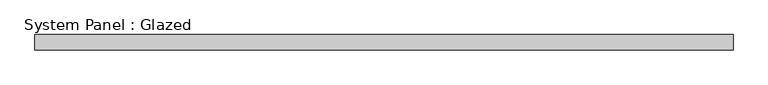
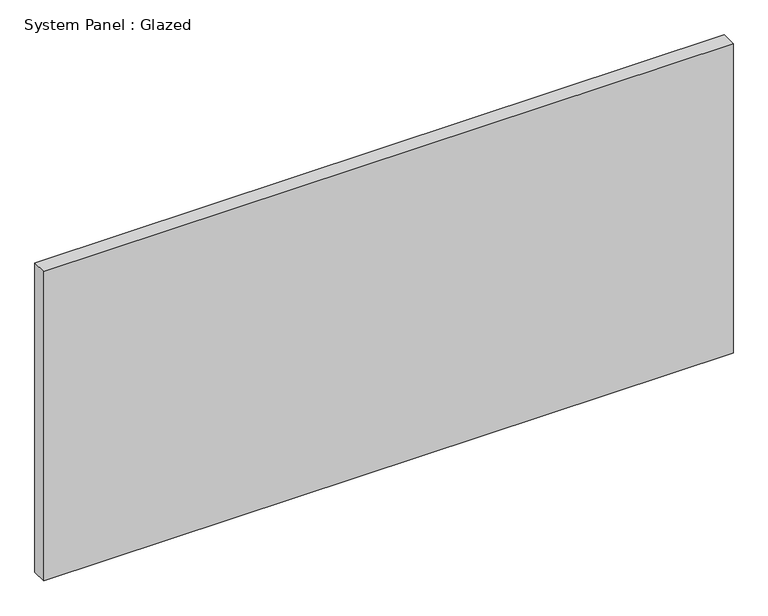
"""IFC4 building model written with IfcOpenShell, lengths in millimetres: plate geometry, System Panel : Glazed."""

from ifc_helpers import new_model, si_unit, origin, origin_with_axes, place, context, project, spatial, polyline, outline, extrude, source, transform, mapped, element, save


def system_panel_glazed_8fba31e9(model_context):
    return source(origin(), model_context, "Body", "SweptSolid", [
        extrude(outline(polyline([(575.3100001, 19.05), (-575.3100001, 19.05), (-575.3100001, 44.45), (575.3100001, 44.45), (575.3100001, 19.05)])), origin_with_axes(), (0.0, 0.0, 1.0), 546.1),
    ])


if __name__ == "__main__":
    model = new_model("IFC4")
    model_context = context("Model", 3, world=origin())
    ifc_project = project(units=[si_unit("LENGTHUNIT", "METRE", prefix="MILLI")], contexts=[model_context])
    site = spatial("IfcSite", under=ifc_project)
    building = spatial("IfcBuilding", under=site)
    placement = place(None, origin())
    system_panel_glazed_shape = system_panel_glazed_8fba31e9(model_context)
    element("IfcPlate", 1, ObjectType="System Panel : Glazed", at=placement, inside=building, context=model_context, shape_type="MappedRepresentation", body=[
        mapped(system_panel_glazed_shape, transform((0.0, 0.0, 0.0), x_axis=(1.0, 0.0, 0.0), y_axis=(0.0, 1.0, 0.0), z_axis=(0.0, 0.0, 1.0))),
    ])
    save(model, "model.ifc")
